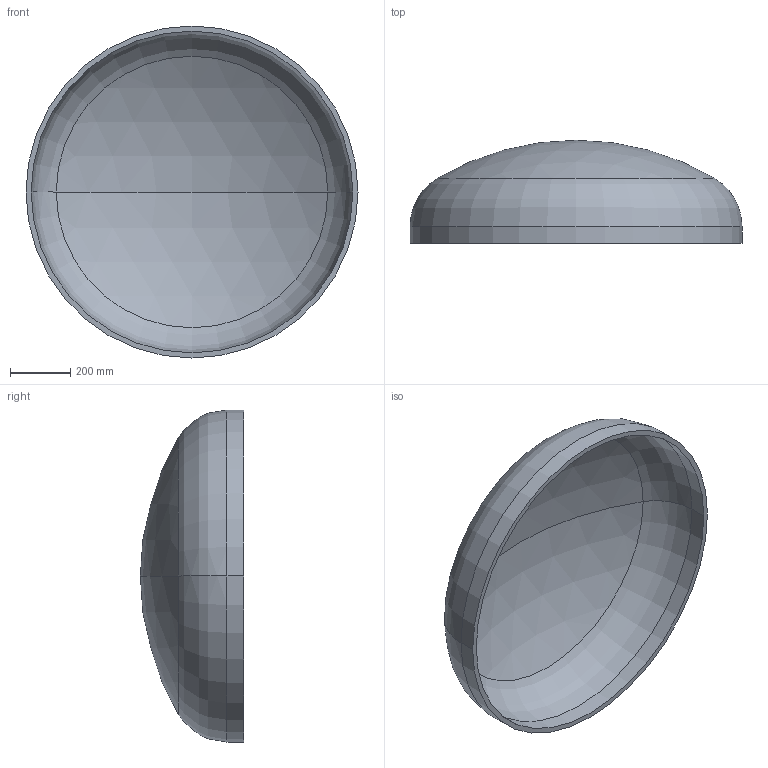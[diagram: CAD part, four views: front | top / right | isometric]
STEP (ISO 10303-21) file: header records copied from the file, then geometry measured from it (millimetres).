
FILE_DESCRIPTION (( 'STEP AP203' ), '1' );
FILE_NAME ('DIN 28013 Korbbogenform_-_Boden DIN 28013 - 1100 x 55 - I - s=17.step', '2016-07-01T09:02:24', ( '' ), ( '' ), 'SwSTEP 2.0', 'SolidWorks 2013', '' );
FILE_SCHEMA (( 'CONFIG_CONTROL_DESIGN' ));
Length unit declared in the file: millimetre
Products named in the file (1): DIN 28013 Korbbogenform_-_Boden DIN 28013 - 1100 x 55 - I - s=17
Bounding box: 1100 x 341.81 x 1100 mm (x, y, z)
Volume: 25119929.1 mm3; surface area: 3013729.9 mm2
Topology: 1 solids, 1 shells, 13 faces, 24 edges, 14 vertices
Faces by surface type: torus 4, cylinder 4, sphere 4, plane 1
Entity records: 407 total; most frequent: DIRECTION 72, CARTESIAN_POINT 52, ORIENTED_EDGE 48, AXIS2_PLACEMENT_3D 34, EDGE_CURVE 24, CIRCLE 20, VERTEX_POINT 14, EDGE_LOOP 14
